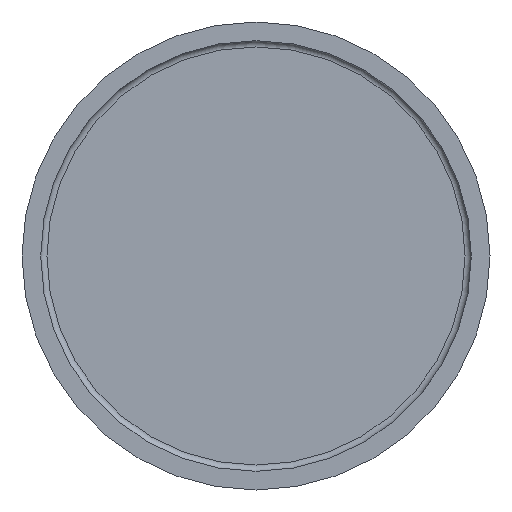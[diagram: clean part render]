
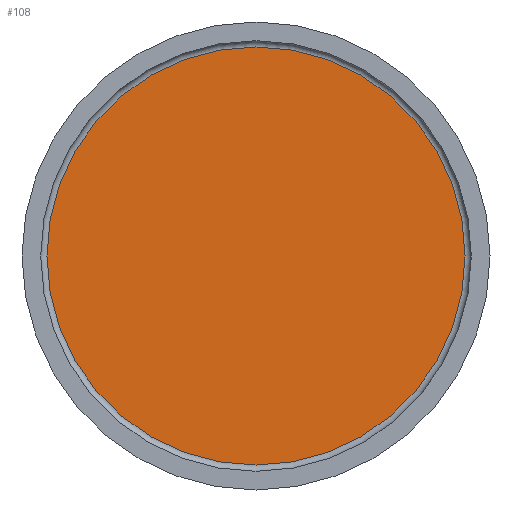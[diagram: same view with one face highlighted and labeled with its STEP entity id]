
A CAD part, left-side view. The second image highlights one B-rep face of the part: STEP entity #108.
In plain terms, the highlighted planar face has unit normal (-1, 0, 0).
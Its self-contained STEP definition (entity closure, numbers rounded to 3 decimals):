
#15=PLANE($,#125);
#31=FACE_OUTER_BOUND($,#44,.T.);
#44=EDGE_LOOP($,(#84));
#56=CIRCLE($,#126,33.5);
#64=VERTEX_POINT($,#185);
#72=EDGE_CURVE($,#64,#64,#56,.T.);
#84=ORIENTED_EDGE($,*,*,#72,.F.);
#108=ADVANCED_FACE($,(#31),#15,.T.);
#125=AXIS2_PLACEMENT_3D($,#184,#154,#155);
#126=AXIS2_PLACEMENT_3D($,#186,#156,#157);
#154=DIRECTION('center_axis',(-1.,0.,0.));
#155=DIRECTION('ref_axis',(0.,0.,1.));
#156=DIRECTION('center_axis',(1.,0.,0.));
#157=DIRECTION('ref_axis',(0.,0.,-1.));
#184=CARTESIAN_POINT('Origin',(9.,33.5,0.));
#185=CARTESIAN_POINT('',(9.,33.5,0.));
#186=CARTESIAN_POINT('Origin',(9.,0.,0.));
